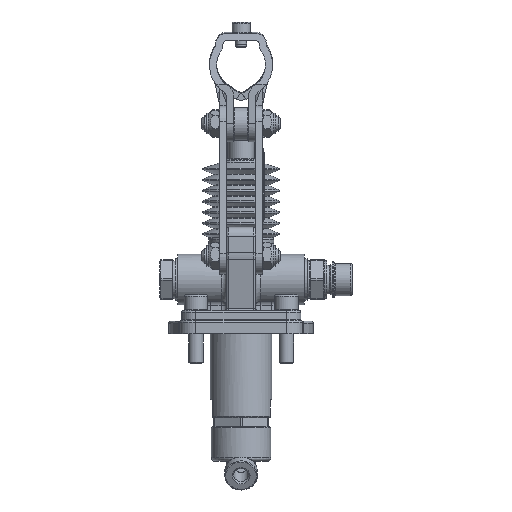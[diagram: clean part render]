
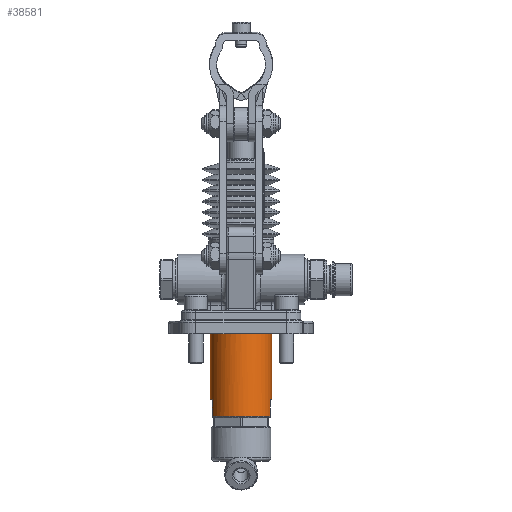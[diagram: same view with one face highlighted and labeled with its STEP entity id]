
A CAD part, left-side view. The second image highlights one B-rep face of the part: STEP entity #38581.
In plain terms, the highlighted cylindrical face has radius 17 mm (diameter 34 mm), a full revolution.
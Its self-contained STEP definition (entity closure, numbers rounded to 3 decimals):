
#29438=CARTESIAN_POINT('',(76.0,34.,1.25));
#29439=VERTEX_POINT('',#29438);
#29440=CARTESIAN_POINT('',(59.0,34.0,1.25));
#29441=DIRECTION('',(0.0,0.0,-1.0));
#29442=DIRECTION('',(-1.0,0.0,0.0));
#29443=AXIS2_PLACEMENT_3D('',#29440,#29441,#29442);
#29444=CIRCLE('',#29443,17.0);
#29445=EDGE_CURVE('',#29439,#29439,#29444,.T.);
#38503=CARTESIAN_POINT('',(59.0,34.0,-47.5));
#38504=DIRECTION('',(0.,0.0,1.0));
#38505=DIRECTION('',(-1.0,0.0,0.0));
#38506=AXIS2_PLACEMENT_3D('',#38503,#38504,#38505);
#38507=CYLINDRICAL_SURFACE('',#38506,17.0);
#38508=ORIENTED_EDGE('',*,*,#29445,.T.);
#38509=EDGE_LOOP('',(#38508));
#38510=FACE_OUTER_BOUND('',#38509,.T.);
#38511=CARTESIAN_POINT('',(53.255,50.,-37.5));
#38512=VERTEX_POINT('',#38511);
#38513=CARTESIAN_POINT('',(53.255,50.,-46.5));
#38514=VERTEX_POINT('',#38513);
#38515=CARTESIAN_POINT('',(53.255,50.,-37.5));
#38516=DIRECTION('',(0.0,0.0,-1.0));
#38517=VECTOR('',#38516,9.0);
#38518=LINE('',#38515,#38517);
#38519=EDGE_CURVE('',#38512,#38514,#38518,.T.);
#38520=ORIENTED_EDGE('',*,*,#38519,.T.);
#38521=CARTESIAN_POINT('',(53.255,18.,-46.5));
#38522=VERTEX_POINT('',#38521);
#38523=CARTESIAN_POINT('',(59.0,34.0,-46.5));
#38524=DIRECTION('',(0.0,0.0,-1.0));
#38525=DIRECTION('',(-1.0,0.0,0.0));
#38526=AXIS2_PLACEMENT_3D('',#38523,#38524,#38525);
#38527=CIRCLE('',#38526,17.0);
#38528=EDGE_CURVE('',#38522,#38514,#38527,.T.);
#38529=ORIENTED_EDGE('',*,*,#38528,.F.);
#38530=CARTESIAN_POINT('',(53.255,18.,-37.5));
#38531=VERTEX_POINT('',#38530);
#38532=CARTESIAN_POINT('',(53.255,18.,-46.5));
#38533=DIRECTION('',(0.0,0.0,1.0));
#38534=VECTOR('',#38533,9.0);
#38535=LINE('',#38532,#38534);
#38536=EDGE_CURVE('',#38522,#38531,#38535,.T.);
#38537=ORIENTED_EDGE('',*,*,#38536,.T.);
#38538=CARTESIAN_POINT('',(64.745,18.0,-37.5));
#38539=VERTEX_POINT('',#38538);
#38540=CARTESIAN_POINT('',(59.0,34.0,-37.5));
#38541=DIRECTION('',(0.0,0.0,1.0));
#38542=DIRECTION('',(-1.0,0.0,0.0));
#38543=AXIS2_PLACEMENT_3D('',#38540,#38541,#38542);
#38544=CIRCLE('',#38543,17.0);
#38545=EDGE_CURVE('',#38531,#38539,#38544,.T.);
#38546=ORIENTED_EDGE('',*,*,#38545,.T.);
#38547=CARTESIAN_POINT('',(64.745,18.0,-46.5));
#38548=VERTEX_POINT('',#38547);
#38549=CARTESIAN_POINT('',(64.745,18.0,-37.5));
#38550=DIRECTION('',(0.0,0.0,-1.0));
#38551=VECTOR('',#38550,9.0);
#38552=LINE('',#38549,#38551);
#38553=EDGE_CURVE('',#38539,#38548,#38552,.T.);
#38554=ORIENTED_EDGE('',*,*,#38553,.T.);
#38555=CARTESIAN_POINT('',(64.745,50.0,-46.5));
#38556=VERTEX_POINT('',#38555);
#38557=CARTESIAN_POINT('',(59.0,34.0,-46.5));
#38558=DIRECTION('',(0.0,0.0,-1.0));
#38559=DIRECTION('',(-1.0,0.0,0.0));
#38560=AXIS2_PLACEMENT_3D('',#38557,#38558,#38559);
#38561=CIRCLE('',#38560,17.0);
#38562=EDGE_CURVE('',#38556,#38548,#38561,.T.);
#38563=ORIENTED_EDGE('',*,*,#38562,.F.);
#38564=CARTESIAN_POINT('',(64.745,50.0,-37.5));
#38565=VERTEX_POINT('',#38564);
#38566=CARTESIAN_POINT('',(64.745,50.0,-46.5));
#38567=DIRECTION('',(0.0,0.0,1.0));
#38568=VECTOR('',#38567,9.0);
#38569=LINE('',#38566,#38568);
#38570=EDGE_CURVE('',#38556,#38565,#38569,.T.);
#38571=ORIENTED_EDGE('',*,*,#38570,.T.);
#38572=CARTESIAN_POINT('',(59.0,34.0,-37.5));
#38573=DIRECTION('',(0.0,0.0,1.0));
#38574=DIRECTION('',(-1.0,0.0,0.0));
#38575=AXIS2_PLACEMENT_3D('',#38572,#38573,#38574);
#38576=CIRCLE('',#38575,17.0);
#38577=EDGE_CURVE('',#38565,#38512,#38576,.T.);
#38578=ORIENTED_EDGE('',*,*,#38577,.T.);
#38579=EDGE_LOOP('',(#38520,#38529,#38537,#38546,#38554,#38563,#38571,#38578));
#38580=FACE_BOUND('',#38579,.T.);
#38581=ADVANCED_FACE('',(#38510,#38580),#38507,.T.);
